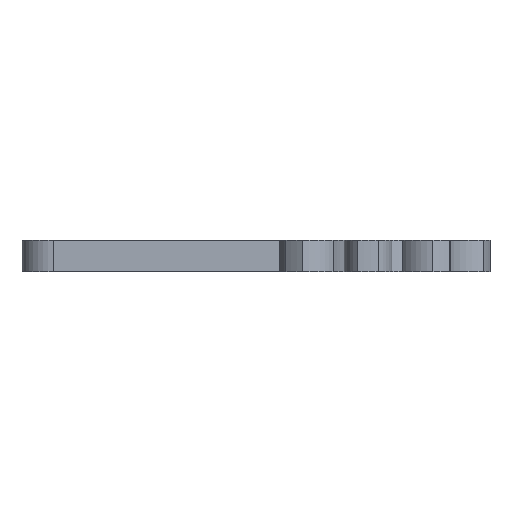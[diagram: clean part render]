
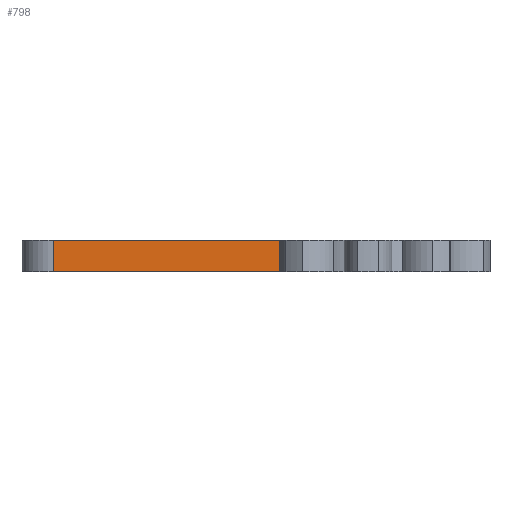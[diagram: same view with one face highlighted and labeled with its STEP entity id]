
A CAD part, front view. The second image highlights one B-rep face of the part: STEP entity #798.
In plain terms, the highlighted planar face has unit normal (0, -1, 0).
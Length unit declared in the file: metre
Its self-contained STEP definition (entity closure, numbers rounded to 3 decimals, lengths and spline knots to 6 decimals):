
#15=PLANE('',#877);
#38=LINE('',#1336,#86);
#39=LINE('',#1340,#87);
#40=LINE('',#1342,#88);
#41=LINE('',#1344,#89);
#86=VECTOR('',#1053,1.);
#87=VECTOR('',#1058,1.);
#88=VECTOR('',#1059,1.);
#89=VECTOR('',#1060,1.);
#170=ORIENTED_EDGE('',*,*,#405,.T.);
#171=ORIENTED_EDGE('',*,*,#406,.F.);
#172=ORIENTED_EDGE('',*,*,#407,.F.);
#173=ORIENTED_EDGE('',*,*,#403,.T.);
#403=EDGE_CURVE('',#515,#514,#38,.T.);
#405=EDGE_CURVE('',#514,#516,#39,.T.);
#406=EDGE_CURVE('',#517,#516,#40,.T.);
#407=EDGE_CURVE('',#515,#517,#41,.T.);
#514=VERTEX_POINT('',#1335);
#515=VERTEX_POINT('',#1337);
#516=VERTEX_POINT('',#1341);
#517=VERTEX_POINT('',#1343);
#660=EDGE_LOOP('',(#170,#171,#172,#173));
#710=FACE_BOUND('',#660,.T.);
#798=ADVANCED_FACE('',(#710),#15,.F.);
#877=AXIS2_PLACEMENT_3D('',#1339,#1056,#1057);
#1053=DIRECTION('',(0.,0.,-1.));
#1056=DIRECTION('',(0.,1.,0.));
#1057=DIRECTION('',(0.,0.,1.));
#1058=DIRECTION('',(1.,0.,0.));
#1059=DIRECTION('',(0.,0.,-1.));
#1060=DIRECTION('',(1.,0.,0.));
#1335=CARTESIAN_POINT('',(-0.030091,-0.003326,0.));
#1336=CARTESIAN_POINT('',(-0.030091,-0.003326,0.003));
#1337=CARTESIAN_POINT('',(-0.030091,-0.003326,0.003));
#1339=CARTESIAN_POINT('',(-0.019263,-0.003326,0.003));
#1340=CARTESIAN_POINT('',(-0.019263,-0.003326,0.));
#1341=CARTESIAN_POINT('',(-0.008436,-0.003326,0.));
#1342=CARTESIAN_POINT('',(-0.008436,-0.003326,0.003));
#1343=CARTESIAN_POINT('',(-0.008436,-0.003326,0.003));
#1344=CARTESIAN_POINT('',(-0.019263,-0.003326,0.003));
